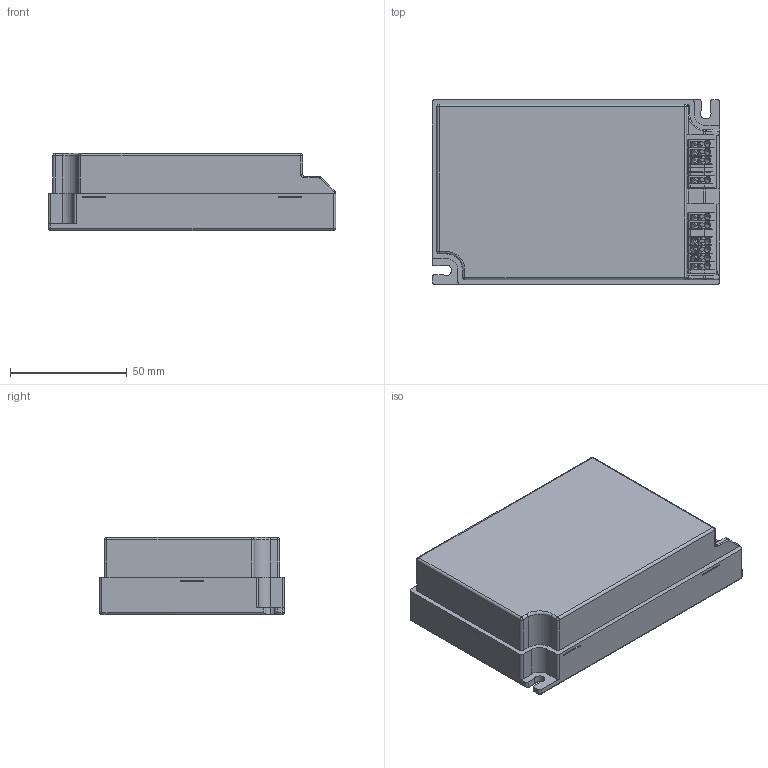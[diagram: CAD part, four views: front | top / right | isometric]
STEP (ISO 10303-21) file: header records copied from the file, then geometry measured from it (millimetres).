
FILE_DESCRIPTION (( 'STEP AP214' ), '1' );
FILE_NAME ('4224293swm000.step', '2020-06-19T11:39:30', ( 'OSRAM' ), ( 'OSRAM' ), 'SwSTEP 2.0', 'SolidWorks 2017', '' );
FILE_SCHEMA (( 'AUTOMOTIVE_DESIGN' ));
Length unit declared in the file: millimetre
Products named in the file (1): 4224293swm000
Bounding box: 123 x 79 x 33 mm (x, y, z)
Volume: 283436.6 mm3; surface area: 47473.1 mm2
Topology: 26 solids, 27 shells, 1959 faces, 4931 edges, 3124 vertices
Faces by surface type: plane 1372, cylinder 463, cone 99, bspline 9, sphere 9, torus 7
Entity records: 80275 total; most frequent: CARTESIAN_POINT 11338, ORIENTED_EDGE 9840, DIRECTION 9613, EDGE_CURVE 4920, VECTOR 3643, LINE 3643, VERTEX_POINT 3124, AXIS2_PLACEMENT_3D 2985
